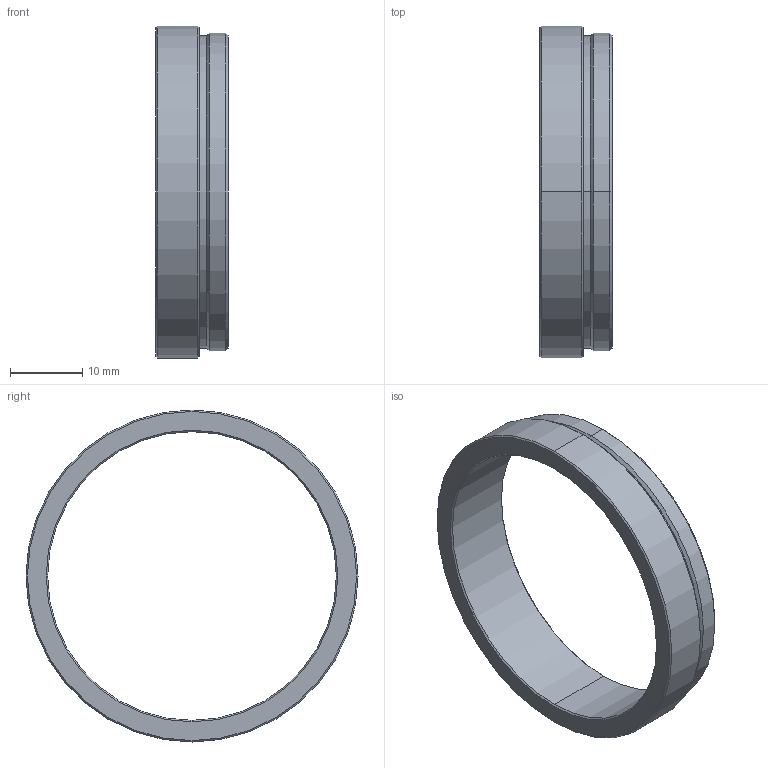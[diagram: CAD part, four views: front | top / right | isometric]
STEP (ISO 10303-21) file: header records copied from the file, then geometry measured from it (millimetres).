
FILE_DESCRIPTION (( 'STEP AP203' ), '1' );
FILE_NAME ('VS-LH_V2.STEP', '2018-11-08T00:06:30', ( '' ), ( '' ), 'SwSTEP 2.0', 'SolidWorks 2018', '' );
FILE_SCHEMA (( 'CONFIG_CONTROL_DESIGN' ));
Length unit declared in the file: millimetre
Products named in the file (1): VS-LH_V2
Bounding box: 10 x 46 x 46 mm (x, y, z)
Volume: 3405.6 mm3; surface area: 3463.2 mm2
Topology: 1 solids, 1 shells, 23 faces, 46 edges, 26 vertices
Faces by surface type: cone 12, cylinder 8, plane 3
Entity records: 675 total; most frequent: DIRECTION 120, CARTESIAN_POINT 96, ORIENTED_EDGE 92, AXIS2_PLACEMENT_3D 50, EDGE_CURVE 46, VERTEX_POINT 26, CIRCLE 26, EDGE_LOOP 26
